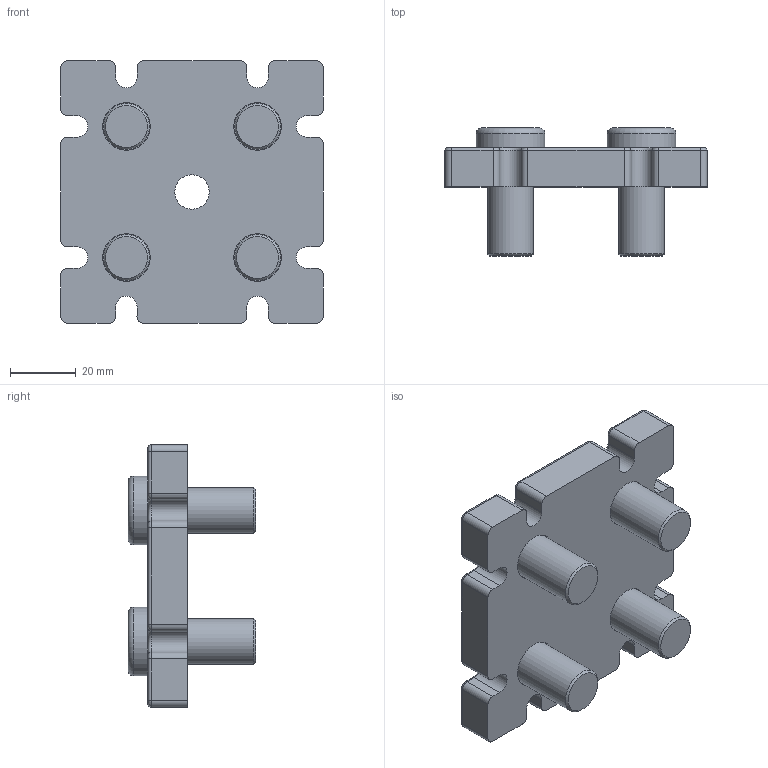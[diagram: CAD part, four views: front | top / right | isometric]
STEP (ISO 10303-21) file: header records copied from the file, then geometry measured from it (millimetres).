
FILE_DESCRIPTION(/* description */ ('Piastra profilo 80x80 per piedino M12 con viti'),/* implementation_level */ '2;1');
FILE_NAME(/* name */ 'C:\Users\Stefan.Nesic\Desktop\01010STEP\MPB80-80M12.stp',/* time_stamp */ '2022-06-17T14:53:35+02:00',/* author */ ('USER'),/* organization */ ('Microsoft'),/* preprocessor_version */ 'ST-DEVELOPER v18.1',/* originating_system */ 'Autodesk Inventor 2021',/* authorisation */ '');
FILE_SCHEMA (('AUTOMOTIVE_DESIGN { 1 0 10303 214 3 1 1 }'));
Length unit declared in the file: millimetre
Products named in the file (1): MPB80-80M12
Bounding box: 80 x 39 x 80 mm (x, y, z)
Surface area: 28760.1 mm2 (no closed solid volume)
Topology: 0 solids, 9 shells, 203 faces, 497 edges, 300 vertices
Faces by surface type: plane 90, cylinder 73, bspline 20, torus 12, cone 8
Full cylindrical faces by diameter (mm): 10.5 x1, 14 x4, 14.5 x4, 21 x4, 21.5 x4
Entity records: 6112 total; most frequent: CARTESIAN_POINT 1199, DIRECTION 1091, ORIENTED_EDGE 970, EDGE_CURVE 493, AXIS2_PLACEMENT_3D 415, VERTEX_POINT 300, LINE 261, VECTOR 261
